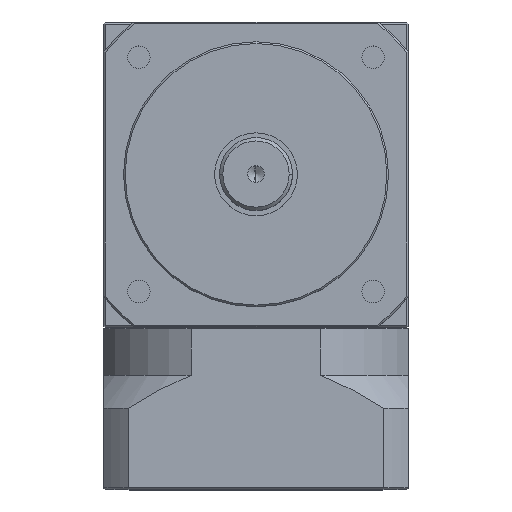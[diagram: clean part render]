
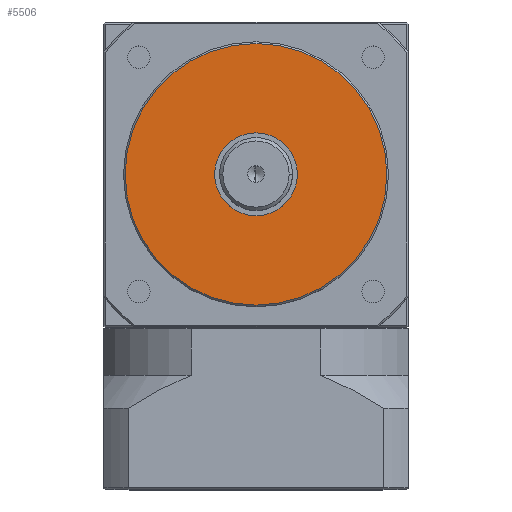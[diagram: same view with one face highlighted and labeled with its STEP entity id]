
A CAD part, top view. The second image highlights one B-rep face of the part: STEP entity #5506.
In plain terms, the highlighted planar face has unit normal (0, 0, 1).
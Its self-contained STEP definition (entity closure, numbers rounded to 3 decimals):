
#373 = EDGE_LOOP ( 'NONE', ( #7576, #7575 ) ) ;
#376 = EDGE_LOOP ( 'NONE', ( #7578, #7577 ) ) ;
#1453 = CIRCLE ( 'NONE', #6798, 12.5 ) ;
#1573 = CIRCLE ( 'NONE', #6860, 39.5 ) ;
#1608 = CIRCLE ( 'NONE', #6871, 39.5 ) ;
#1609 = CIRCLE ( 'NONE', #6872, 12.5 ) ;
#2083 = FACE_OUTER_BOUND ( 'NONE', #376, .T. ) ;
#2091 = FACE_BOUND ( 'NONE', #373, .T. ) ;
#2695 = CARTESIAN_POINT ( 'NONE',  ( 0., 0., 68. ) ) ;
#2696 = DIRECTION ( 'NONE',  ( 0., 0., 1. ) ) ;
#2697 = DIRECTION ( 'NONE',  ( 1., 0., 0. ) ) ;
#2756 = CARTESIAN_POINT ( 'NONE',  ( 0., 0., 68. ) ) ;
#2757 = DIRECTION ( 'NONE',  ( 0., 0., 1. ) ) ;
#2758 = DIRECTION ( 'NONE',  ( 1., 0., 0. ) ) ;
#2760 = CARTESIAN_POINT ( 'NONE',  ( 0., 0., 68. ) ) ;
#2761 = DIRECTION ( 'NONE',  ( 0., 0., 1. ) ) ;
#2762 = DIRECTION ( 'NONE',  ( 1., 0., 0. ) ) ;
#3463 = EDGE_CURVE ( 'NONE', #7703, #7666, #1453, .T. ) ;
#3579 = EDGE_CURVE ( 'NONE', #7701, #7700, #1573, .T. ) ;
#3602 = EDGE_CURVE ( 'NONE', #7700, #7701, #1608, .T. ) ;
#3603 = EDGE_CURVE ( 'NONE', #7666, #7703, #1609, .T. ) ;
#4123 = CARTESIAN_POINT ( 'NONE',  ( 0., 0., 68. ) ) ;
#4126 = PLANE ( 'NONE',  #7030 ) ;
#4128 = DIRECTION ( 'NONE',  ( 0., 0., 1. ) ) ;
#4129 = DIRECTION ( 'NONE',  ( 1., 0., 0. ) ) ;
#5259 = CARTESIAN_POINT ( 'NONE',  ( -12.5, 0., 68. ) ) ;
#5293 = CARTESIAN_POINT ( 'NONE',  ( -39.5, 0., 68. ) ) ;
#5294 = CARTESIAN_POINT ( 'NONE',  ( 39.5, 0., 68. ) ) ;
#5296 = CARTESIAN_POINT ( 'NONE',  ( 12.5, 0., 68. ) ) ;
#5506 = ADVANCED_FACE ( 'NONE', ( #2083, #2091 ), #4126, .T. ) ;
#6430 = DIRECTION ( 'NONE',  ( 1., 0., 0. ) ) ;
#6431 = DIRECTION ( 'NONE',  ( 0., 0., 1. ) ) ;
#6432 = CARTESIAN_POINT ( 'NONE',  ( 0., 0., 68. ) ) ;
#6798 = AXIS2_PLACEMENT_3D ( 'NONE', #6432, #6431, #6430 ) ;
#6860 = AXIS2_PLACEMENT_3D ( 'NONE', #2695, #2696, #2697 ) ;
#6871 = AXIS2_PLACEMENT_3D ( 'NONE', #2756, #2757, #2758 ) ;
#6872 = AXIS2_PLACEMENT_3D ( 'NONE', #2760, #2761, #2762 ) ;
#7030 = AXIS2_PLACEMENT_3D ( 'NONE', #4123, #4128, #4129 ) ;
#7575 = ORIENTED_EDGE ( 'NONE', *, *, #3463, .F. ) ;
#7576 = ORIENTED_EDGE ( 'NONE', *, *, #3603, .F. ) ;
#7577 = ORIENTED_EDGE ( 'NONE', *, *, #3579, .T. ) ;
#7578 = ORIENTED_EDGE ( 'NONE', *, *, #3602, .T. ) ;
#7666 = VERTEX_POINT ( 'NONE', #5259 ) ;
#7700 = VERTEX_POINT ( 'NONE', #5293 ) ;
#7701 = VERTEX_POINT ( 'NONE', #5294 ) ;
#7703 = VERTEX_POINT ( 'NONE', #5296 ) ;
